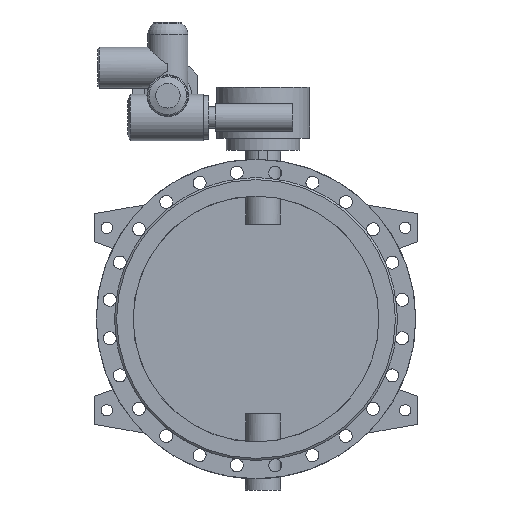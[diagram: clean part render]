
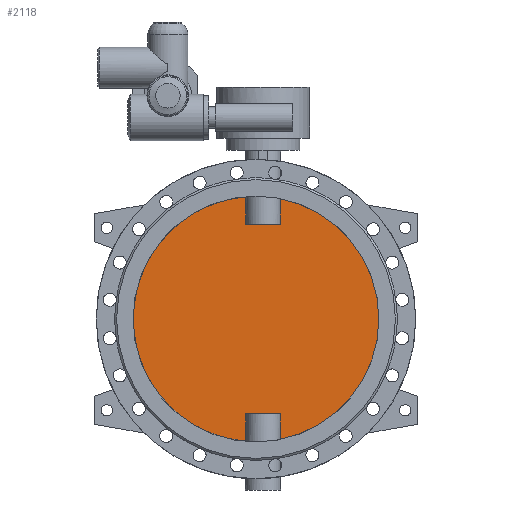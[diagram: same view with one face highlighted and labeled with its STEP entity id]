
A CAD part, front view. The second image highlights one B-rep face of the part: STEP entity #2118.
In plain terms, the highlighted planar face has unit normal (0, -1, 0).
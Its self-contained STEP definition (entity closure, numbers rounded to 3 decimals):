
#2118=ADVANCED_FACE('',(#4187),#4189,.F.);
#4187=FACE_BOUND('',#4188,.T.);
#4188=EDGE_LOOP('',(#5439,#5440,#5441,#5442,#5443,#5444,#5445,#5446));
#4189=PLANE('',#4190);
#4190=AXIS2_PLACEMENT_3D('',#4191,#4192,#4193);
#4191=CARTESIAN_POINT('',(0.,-5.,0.));
#4192=DIRECTION('',(0.,1.,0.));
#4193=DIRECTION('',(1.,0.,0.));
#5439=ORIENTED_EDGE('',*,*,#6066,.T.);
#5440=ORIENTED_EDGE('',*,*,#6071,.T.);
#5441=ORIENTED_EDGE('',*,*,#6072,.T.);
#5442=ORIENTED_EDGE('',*,*,#6073,.T.);
#5443=ORIENTED_EDGE('',*,*,#6068,.T.);
#5444=ORIENTED_EDGE('',*,*,#6074,.T.);
#5445=ORIENTED_EDGE('',*,*,#6075,.T.);
#5446=ORIENTED_EDGE('',*,*,#6076,.T.);
#6066=EDGE_CURVE('',#7155,#7156,#7157,.F.);
#6068=EDGE_CURVE('',#7160,#7158,#7161,.F.);
#6071=EDGE_CURVE('',#7156,#7165,#7166,.T.);
#6072=EDGE_CURVE('',#7165,#7167,#7168,.F.);
#6073=EDGE_CURVE('',#7167,#7160,#7169,.F.);
#6074=EDGE_CURVE('',#7158,#7170,#7171,.F.);
#6075=EDGE_CURVE('',#7170,#7172,#7173,.F.);
#6076=EDGE_CURVE('',#7172,#7155,#7174,.T.);
#7155=VERTEX_POINT('',#13434);
#7156=VERTEX_POINT('',#13435);
#7157=CIRCLE('',#13436,350.);
#7158=VERTEX_POINT('',#13440);
#7160=VERTEX_POINT('',#13482);
#7161=CIRCLE('',#13483,350.);
#7165=VERTEX_POINT('',#13600);
#7166=LINE('',#13601,#13602);
#7167=VERTEX_POINT('',#13604);
#7168=LINE('',#13605,#13606);
#7169=LINE('',#13608,#13609);
#7170=VERTEX_POINT('',#13611);
#7171=LINE('',#13612,#13613);
#7172=VERTEX_POINT('',#13615);
#7173=LINE('',#13616,#13617);
#7174=LINE('',#13619,#13620);
#13434=CARTESIAN_POINT('',(69.749,-5.,-342.98));
#13435=CARTESIAN_POINT('',(69.749,-5.,342.98));
#13436=AXIS2_PLACEMENT_3D('',#13437,#13438,#13439);
#13437=CARTESIAN_POINT('',(0.,-5.,0.));
#13438=DIRECTION('',(0.,1.,0.));
#13439=DIRECTION('',(0.199,0.,0.98));
#13440=CARTESIAN_POINT('',(-29.749,-5.,-348.733));
#13482=CARTESIAN_POINT('',(-29.749,-5.,348.733));
#13483=AXIS2_PLACEMENT_3D('',#13484,#13485,#13486);
#13484=CARTESIAN_POINT('',(0.,-5.,0.));
#13485=DIRECTION('',(0.,1.,0.));
#13486=DIRECTION('',(-0.085,0.,-0.996));
#13600=CARTESIAN_POINT('',(69.749,-5.,270.));
#13601=CARTESIAN_POINT('',(69.749,-5.,342.98));
#13602=VECTOR('',#13603,1.);
#13603=DIRECTION('',(0.,0.,-1.));
#13604=CARTESIAN_POINT('',(-29.749,-5.,270.));
#13605=CARTESIAN_POINT('',(-29.749,-5.,270.));
#13606=VECTOR('',#13607,1.);
#13607=DIRECTION('',(1.,0.,0.));
#13608=CARTESIAN_POINT('',(-29.749,-5.,348.733));
#13609=VECTOR('',#13610,1.);
#13610=DIRECTION('',(0.,0.,-1.));
#13611=CARTESIAN_POINT('',(-29.749,-5.,-270.));
#13612=CARTESIAN_POINT('',(-29.749,-5.,-270.));
#13613=VECTOR('',#13614,1.);
#13614=DIRECTION('',(0.,0.,-1.));
#13615=CARTESIAN_POINT('',(69.749,-5.,-270.));
#13616=CARTESIAN_POINT('',(69.749,-5.,-270.));
#13617=VECTOR('',#13618,1.);
#13618=DIRECTION('',(-1.,0.,0.));
#13619=CARTESIAN_POINT('',(69.749,-5.,-270.));
#13620=VECTOR('',#13621,1.);
#13621=DIRECTION('',(0.,0.,-1.));
